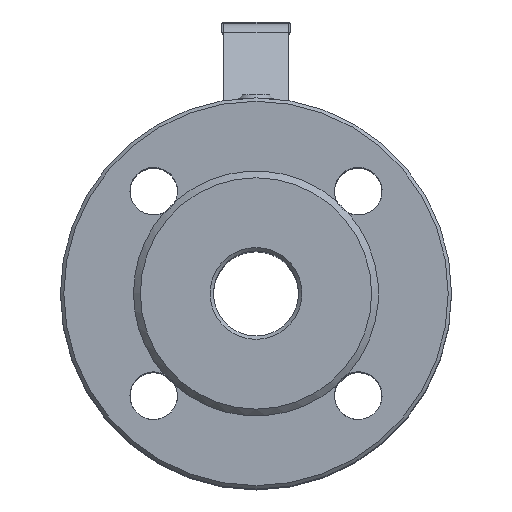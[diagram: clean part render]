
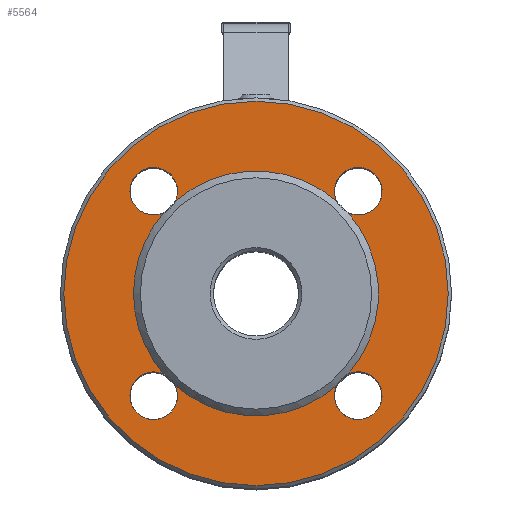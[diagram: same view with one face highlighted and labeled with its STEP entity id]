
A CAD part, top view. The second image highlights one B-rep face of the part: STEP entity #5564.
In plain terms, the highlighted planar face has unit normal (0, 0, 1).
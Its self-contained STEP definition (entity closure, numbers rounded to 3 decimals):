
#5564=ADVANCED_FACE('',(#17901,#17903),#17905,.F.);
#17901=FACE_BOUND('',#17902,.T.);
#17902=EDGE_LOOP('',(#27050));
#17903=FACE_BOUND('',#17904,.T.);
#17904=EDGE_LOOP('',(#27051,#27052,#27053,#27054,#27055,#27056,#27057,#27058,#27059,
#27060,#27061,#27062,#27063));
#17905=PLANE('',#17906);
#17906=AXIS2_PLACEMENT_3D('',#17907,#17908,#17909);
#17907=CARTESIAN_POINT('',(0.,0.,78.));
#17908=DIRECTION('',(0.,0.,-1.));
#17909=DIRECTION('',(-1.,0.,0.));
#27050=ORIENTED_EDGE('',*,*,#30921,.F.);
#27051=ORIENTED_EDGE('',*,*,#30922,.F.);
#27052=ORIENTED_EDGE('',*,*,#30894,.F.);
#27053=ORIENTED_EDGE('',*,*,#30893,.F.);
#27054=ORIENTED_EDGE('',*,*,#30923,.F.);
#27055=ORIENTED_EDGE('',*,*,#30898,.F.);
#27056=ORIENTED_EDGE('',*,*,#30897,.F.);
#27057=ORIENTED_EDGE('',*,*,#30924,.F.);
#27058=ORIENTED_EDGE('',*,*,#30901,.F.);
#27059=ORIENTED_EDGE('',*,*,#30900,.F.);
#27060=ORIENTED_EDGE('',*,*,#30925,.F.);
#27061=ORIENTED_EDGE('',*,*,#30926,.F.);
#27062=ORIENTED_EDGE('',*,*,#30891,.F.);
#27063=ORIENTED_EDGE('',*,*,#30890,.F.);
#30890=EDGE_CURVE('',#37083,#37084,#37085,.T.);
#30891=EDGE_CURVE('',#37084,#37086,#37087,.T.);
#30893=EDGE_CURVE('',#37089,#37090,#37091,.T.);
#30894=EDGE_CURVE('',#37090,#37092,#37093,.T.);
#30897=EDGE_CURVE('',#37096,#37098,#37099,.T.);
#30898=EDGE_CURVE('',#37098,#37095,#37100,.T.);
#30900=EDGE_CURVE('',#37102,#37104,#37105,.T.);
#30901=EDGE_CURVE('',#37104,#37101,#37106,.T.);
#30921=EDGE_CURVE('',#37141,#37141,#37142,.T.);
#30922=EDGE_CURVE('',#37092,#37083,#37143,.T.);
#30923=EDGE_CURVE('',#37095,#37089,#37144,.T.);
#30924=EDGE_CURVE('',#37101,#37096,#37145,.T.);
#30925=EDGE_CURVE('',#37146,#37102,#37147,.T.);
#30926=EDGE_CURVE('',#37086,#37146,#37148,.T.);
#37083=VERTEX_POINT('',#61480);
#37084=VERTEX_POINT('',#61481);
#37085=CIRCLE('',#61482,7.);
#37086=VERTEX_POINT('',#61486);
#37087=CIRCLE('',#61487,7.);
#37089=VERTEX_POINT('',#61547);
#37090=VERTEX_POINT('',#61548);
#37091=CIRCLE('',#61549,7.);
#37092=VERTEX_POINT('',#61553);
#37093=CIRCLE('',#61554,7.);
#37095=VERTEX_POINT('',#61614);
#37096=VERTEX_POINT('',#61615);
#37098=VERTEX_POINT('',#61672);
#37099=CIRCLE('',#61673,7.);
#37100=CIRCLE('',#61677,7.);
#37101=VERTEX_POINT('',#61681);
#37102=VERTEX_POINT('',#61682);
#37104=VERTEX_POINT('',#61739);
#37105=CIRCLE('',#61740,7.);
#37106=CIRCLE('',#61744,7.);
#37141=VERTEX_POINT('',#61839);
#37142=CIRCLE('',#61840,56.5);
#37143=CIRCLE('',#61844,36.);
#37144=CIRCLE('',#61848,36.);
#37145=CIRCLE('',#61852,36.);
#37146=VERTEX_POINT('',#61856);
#37147=CIRCLE('',#61857,36.);
#37148=CIRCLE('',#61861,36.);
#61480=CARTESIAN_POINT('',(-23.71,27.09,78.));
#61481=CARTESIAN_POINT('',(-37.052,30.052,78.));
#61482=AXIS2_PLACEMENT_3D('',#61483,#61484,#61485);
#61483=CARTESIAN_POINT('',(-30.052,30.052,78.));
#61484=DIRECTION('',(0.,0.,1.));
#61485=DIRECTION('',(0.906,-0.423,0.));
#61486=CARTESIAN_POINT('',(-27.09,23.71,78.));
#61487=AXIS2_PLACEMENT_3D('',#61488,#61489,#61490);
#61488=CARTESIAN_POINT('',(-30.052,30.052,78.));
#61489=DIRECTION('',(0.,0.,1.));
#61490=DIRECTION('',(-1.,0.,0.));
#61547=CARTESIAN_POINT('',(27.09,23.71,78.));
#61548=CARTESIAN_POINT('',(23.052,30.052,78.));
#61549=AXIS2_PLACEMENT_3D('',#61550,#61551,#61552);
#61550=CARTESIAN_POINT('',(30.052,30.052,78.));
#61551=DIRECTION('',(0.,0.,1.));
#61552=DIRECTION('',(-0.423,-0.906,0.));
#61553=CARTESIAN_POINT('',(23.71,27.09,78.));
#61554=AXIS2_PLACEMENT_3D('',#61555,#61556,#61557);
#61555=CARTESIAN_POINT('',(30.052,30.052,78.));
#61556=DIRECTION('',(0.,0.,1.));
#61557=DIRECTION('',(-1.,0.,0.));
#61614=CARTESIAN_POINT('',(27.09,-23.71,78.));
#61615=CARTESIAN_POINT('',(23.71,-27.09,78.));
#61672=CARTESIAN_POINT('',(23.052,-30.052,78.));
#61673=AXIS2_PLACEMENT_3D('',#61674,#61675,#61676);
#61674=CARTESIAN_POINT('',(30.052,-30.052,78.));
#61675=DIRECTION('',(0.,0.,1.));
#61676=DIRECTION('',(-0.906,0.423,0.));
#61677=AXIS2_PLACEMENT_3D('',#61678,#61679,#61680);
#61678=CARTESIAN_POINT('',(30.052,-30.052,78.));
#61679=DIRECTION('',(0.,0.,1.));
#61680=DIRECTION('',(-1.,0.,0.));
#61681=CARTESIAN_POINT('',(-23.71,-27.09,78.));
#61682=CARTESIAN_POINT('',(-27.09,-23.71,78.));
#61739=CARTESIAN_POINT('',(-37.052,-30.052,78.));
#61740=AXIS2_PLACEMENT_3D('',#61741,#61742,#61743);
#61741=CARTESIAN_POINT('',(-30.052,-30.052,78.));
#61742=DIRECTION('',(0.,0.,1.));
#61743=DIRECTION('',(0.423,0.906,0.));
#61744=AXIS2_PLACEMENT_3D('',#61745,#61746,#61747);
#61745=CARTESIAN_POINT('',(-30.052,-30.052,78.));
#61746=DIRECTION('',(0.,0.,1.));
#61747=DIRECTION('',(-1.,0.,0.));
#61839=CARTESIAN_POINT('',(-56.5,0.,78.));
#61840=AXIS2_PLACEMENT_3D('',#61841,#61842,#61843);
#61841=CARTESIAN_POINT('',(0.,0.,78.));
#61842=DIRECTION('',(0.,0.,-1.));
#61843=DIRECTION('',(-1.,0.,0.));
#61844=AXIS2_PLACEMENT_3D('',#61845,#61846,#61847);
#61845=CARTESIAN_POINT('',(0.,0.,78.));
#61846=DIRECTION('',(0.,0.,1.));
#61847=DIRECTION('',(0.659,0.752,0.));
#61848=AXIS2_PLACEMENT_3D('',#61849,#61850,#61851);
#61849=CARTESIAN_POINT('',(0.,0.,78.));
#61850=DIRECTION('',(0.,0.,1.));
#61851=DIRECTION('',(0.752,-0.659,0.));
#61852=AXIS2_PLACEMENT_3D('',#61853,#61854,#61855);
#61853=CARTESIAN_POINT('',(0.,0.,78.));
#61854=DIRECTION('',(0.,0.,1.));
#61855=DIRECTION('',(-0.659,-0.752,0.));
#61856=CARTESIAN_POINT('',(-36.,0.,78.));
#61857=AXIS2_PLACEMENT_3D('',#61858,#61859,#61860);
#61858=CARTESIAN_POINT('',(0.,0.,78.));
#61859=DIRECTION('',(0.,0.,1.));
#61860=DIRECTION('',(-1.,0.,0.));
#61861=AXIS2_PLACEMENT_3D('',#61862,#61863,#61864);
#61862=CARTESIAN_POINT('',(0.,0.,78.));
#61863=DIRECTION('',(0.,0.,1.));
#61864=DIRECTION('',(-0.752,0.659,0.));
